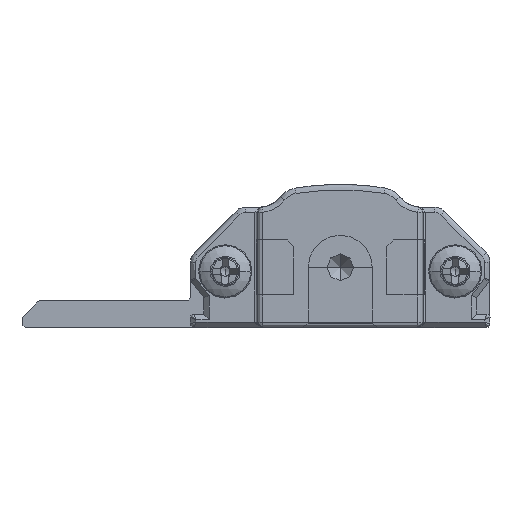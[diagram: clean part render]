
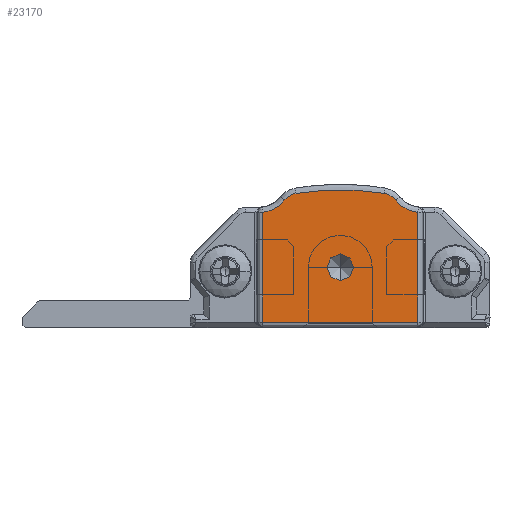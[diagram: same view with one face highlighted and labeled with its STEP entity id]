
A CAD part, front view. The second image highlights one B-rep face of the part: STEP entity #23170.
In plain terms, the highlighted planar face has unit normal (0, -1, 0).
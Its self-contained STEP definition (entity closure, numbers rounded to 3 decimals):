
#1016 = LINE ( 'NONE', #15783, #29221 ) ;
#1057 = VECTOR ( 'NONE', #2403, 1000. ) ;
#1211 = VERTEX_POINT ( 'NONE', #15795 ) ;
#1822 = CARTESIAN_POINT ( 'NONE',  ( 11.2, -15., 5.5 ) ) ;
#1893 = PLANE ( 'NONE',  #10756 ) ;
#1896 = ORIENTED_EDGE ( 'NONE', *, *, #16594, .T. ) ;
#2260 = LINE ( 'NONE', #6671, #22893 ) ;
#2403 = DIRECTION ( 'NONE',  ( 0., 0., -1. ) ) ;
#2648 = EDGE_CURVE ( 'NONE', #24009, #1211, #2260, .T. ) ;
#3013 = CIRCLE ( 'NONE', #8018, 2.4 ) ;
#3015 = CARTESIAN_POINT ( 'NONE',  ( 14.508, -15., 10.034 ) ) ;
#3408 = DIRECTION ( 'NONE',  ( 1., 0., 0. ) ) ;
#4299 = CARTESIAN_POINT ( 'NONE',  ( 5.4, -15., 0.4 ) ) ;
#4738 = VERTEX_POINT ( 'NONE', #5766 ) ;
#4750 = LINE ( 'NONE', #4299, #1057 ) ;
#4854 = DIRECTION ( 'NONE',  ( 0., 0., -1. ) ) ;
#5076 = EDGE_CURVE ( 'NONE', #25851, #25106, #30173, .T. ) ;
#5677 = ORIENTED_EDGE ( 'NONE', *, *, #6464, .F. ) ;
#5766 = CARTESIAN_POINT ( 'NONE',  ( 15.332, -15., 9.541 ) ) ;
#6236 = AXIS2_PLACEMENT_3D ( 'NONE', #10504, #12862, #27650 ) ;
#6464 = EDGE_CURVE ( 'NONE', #25106, #25851, #21753, .T. ) ;
#6671 = CARTESIAN_POINT ( 'NONE',  ( 17., -15., 8.612 ) ) ;
#7156 = DIRECTION ( 'NONE',  ( 0., 0., -1. ) ) ;
#7208 = DIRECTION ( 'NONE',  ( 0., 0., -1. ) ) ;
#7686 = ORIENTED_EDGE ( 'NONE', *, *, #2648, .T. ) ;
#8018 = AXIS2_PLACEMENT_3D ( 'NONE', #28933, #13853, #7156 ) ;
#8575 = EDGE_CURVE ( 'NONE', #27157, #24009, #1016, .T. ) ;
#8783 = ORIENTED_EDGE ( 'NONE', *, *, #12457, .T. ) ;
#8843 = VERTEX_POINT ( 'NONE', #3015 ) ;
#9030 = CARTESIAN_POINT ( 'NONE',  ( 17., -15., 0.4 ) ) ;
#9172 = CARTESIAN_POINT ( 'NONE',  ( 11.2, -15., -10.376 ) ) ;
#9234 = ORIENTED_EDGE ( 'NONE', *, *, #8575, .T. ) ;
#9348 = DIRECTION ( 'NONE',  ( 0., 0., -1. ) ) ;
#9780 = CARTESIAN_POINT ( 'NONE',  ( 22.15, -15., 3.606 ) ) ;
#10356 = DIRECTION ( 'NONE',  ( 0., 0., -1. ) ) ;
#10504 = CARTESIAN_POINT ( 'NONE',  ( 8.1, -15., 8.75 ) ) ;
#10756 = AXIS2_PLACEMENT_3D ( 'NONE', #9780, #19506, #4854 ) ;
#10859 = CARTESIAN_POINT ( 'NONE',  ( 5.162, -15., 11. ) ) ;
#11012 = AXIS2_PLACEMENT_3D ( 'NONE', #28979, #19325, #7208 ) ;
#11307 = DIRECTION ( 'NONE',  ( 0., 0., -1. ) ) ;
#11838 = CIRCLE ( 'NONE', #6236, 1.3 ) ;
#12092 = CIRCLE ( 'NONE', #21784, 2.4 ) ;
#12211 = EDGE_LOOP ( 'NONE', ( #5677, #29302 ) ) ;
#12361 = ORIENTED_EDGE ( 'NONE', *, *, #20114, .T. ) ;
#12457 = EDGE_CURVE ( 'NONE', #19505, #13704, #12092, .T. ) ;
#12527 = EDGE_CURVE ( 'NONE', #1211, #4738, #3013, .T. ) ;
#12862 = DIRECTION ( 'NONE',  ( 0., -1., 0. ) ) ;
#13704 = VERTEX_POINT ( 'NONE', #24010 ) ;
#13853 = DIRECTION ( 'NONE',  ( 0., 1., 0. ) ) ;
#14302 = CARTESIAN_POINT ( 'NONE',  ( 11.2, -15., 3.5 ) ) ;
#15307 = CARTESIAN_POINT ( 'NONE',  ( 11.2, -15., 4.5 ) ) ;
#15783 = CARTESIAN_POINT ( 'NONE',  ( 17., -15., 0.4 ) ) ;
#15795 = CARTESIAN_POINT ( 'NONE',  ( 17., -15., 8.612 ) ) ;
#16265 = DIRECTION ( 'NONE',  ( 0., 1., 0. ) ) ;
#16524 = CARTESIAN_POINT ( 'NONE',  ( 7.068, -15., 9.541 ) ) ;
#16594 = EDGE_CURVE ( 'NONE', #4738, #8843, #20639, .T. ) ;
#17421 = ORIENTED_EDGE ( 'NONE', *, *, #23954, .T. ) ;
#18009 = AXIS2_PLACEMENT_3D ( 'NONE', #15307, #22433, #10356 ) ;
#18588 = DIRECTION ( 'NONE',  ( 0., -1., 0. ) ) ;
#18801 = AXIS2_PLACEMENT_3D ( 'NONE', #19075, #19377, #9348 ) ;
#18901 = DIRECTION ( 'NONE',  ( 0., 0., -1. ) ) ;
#19075 = CARTESIAN_POINT ( 'NONE',  ( 11.2, -15., 4.5 ) ) ;
#19325 = DIRECTION ( 'NONE',  ( 0., -1., 0. ) ) ;
#19377 = DIRECTION ( 'NONE',  ( 0., -1., 0. ) ) ;
#19505 = VERTEX_POINT ( 'NONE', #16524 ) ;
#19506 = DIRECTION ( 'NONE',  ( 0., -1., 0. ) ) ;
#19565 = CARTESIAN_POINT ( 'NONE',  ( 7.892, -15., 10.034 ) ) ;
#20114 = EDGE_CURVE ( 'NONE', #13704, #27157, #4750, .T. ) ;
#20263 = VERTEX_POINT ( 'NONE', #19565 ) ;
#20639 = CIRCLE ( 'NONE', #11012, 1.3 ) ;
#21083 = FACE_OUTER_BOUND ( 'NONE', #28558, .T. ) ;
#21335 = ORIENTED_EDGE ( 'NONE', *, *, #12527, .T. ) ;
#21753 = CIRCLE ( 'NONE', #18801, 1. ) ;
#21765 = CIRCLE ( 'NONE', #26843, 20.676 ) ;
#21784 = AXIS2_PLACEMENT_3D ( 'NONE', #10859, #16265, #11307 ) ;
#22433 = DIRECTION ( 'NONE',  ( 0., -1., 0. ) ) ;
#22893 = VECTOR ( 'NONE', #24185, 1000. ) ;
#23170 = ADVANCED_FACE ( 'NONE', ( #21083, #30733 ), #1893, .T. ) ;
#23828 = ORIENTED_EDGE ( 'NONE', *, *, #28266, .T. ) ;
#23954 = EDGE_CURVE ( 'NONE', #20263, #19505, #11838, .T. ) ;
#24009 = VERTEX_POINT ( 'NONE', #9030 ) ;
#24010 = CARTESIAN_POINT ( 'NONE',  ( 5.4, -15., 8.612 ) ) ;
#24185 = DIRECTION ( 'NONE',  ( 0., 0., 1. ) ) ;
#25106 = VERTEX_POINT ( 'NONE', #14302 ) ;
#25851 = VERTEX_POINT ( 'NONE', #1822 ) ;
#26843 = AXIS2_PLACEMENT_3D ( 'NONE', #9172, #18588, #18901 ) ;
#27157 = VERTEX_POINT ( 'NONE', #30331 ) ;
#27650 = DIRECTION ( 'NONE',  ( 0., 0., -1. ) ) ;
#28266 = EDGE_CURVE ( 'NONE', #8843, #20263, #21765, .T. ) ;
#28558 = EDGE_LOOP ( 'NONE', ( #7686, #21335, #1896, #23828, #17421, #8783, #12361, #9234 ) ) ;
#28933 = CARTESIAN_POINT ( 'NONE',  ( 17.238, -15., 11. ) ) ;
#28979 = CARTESIAN_POINT ( 'NONE',  ( 14.3, -15., 8.75 ) ) ;
#29221 = VECTOR ( 'NONE', #3408, 1000. ) ;
#29302 = ORIENTED_EDGE ( 'NONE', *, *, #5076, .F. ) ;
#30173 = CIRCLE ( 'NONE', #18009, 1. ) ;
#30331 = CARTESIAN_POINT ( 'NONE',  ( 5.4, -15., 0.4 ) ) ;
#30733 = FACE_BOUND ( 'NONE', #12211, .T. ) ;
